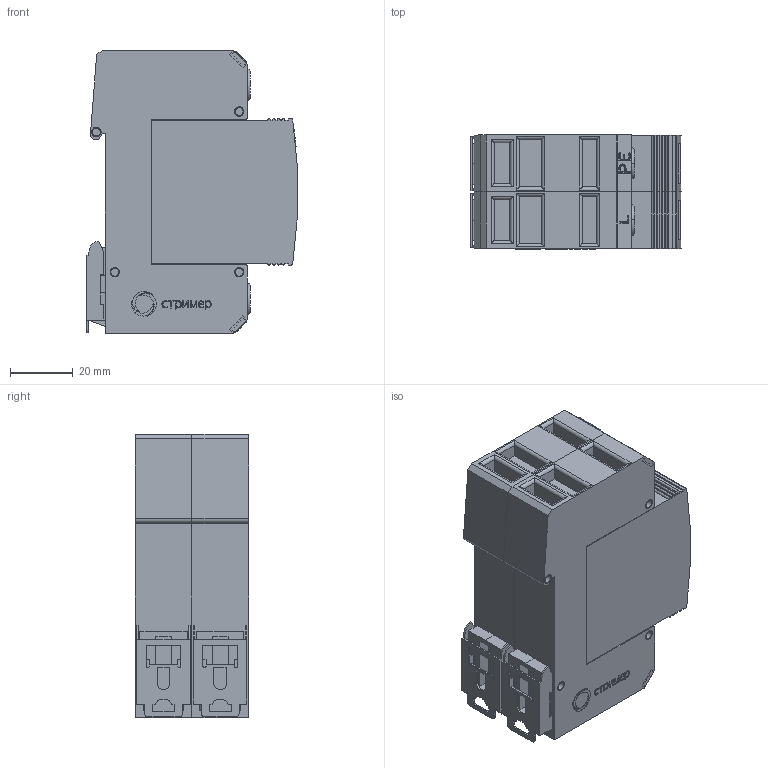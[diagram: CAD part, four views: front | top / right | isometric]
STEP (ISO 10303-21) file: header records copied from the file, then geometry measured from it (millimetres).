
FILE_DESCRIPTION(('TFLEX Exchange Step'),'2;1');
FILE_NAME('X2\041004400442\X0\.112_002.stp', '2022-07-15T15:50:44+03:00',('Pavel Oborin'),('Unknown organisation'),'TFLEX Exchange 2019.2','T-FLEX CAD','Unknown authorisation');
FILE_SCHEMA( ('AUTOMOTIVE_DESIGN { 1 0 10303 214 1 1 1 1 }') );
Length unit declared in the file: millimetre
Products named in the file (20): 0; Буква PE; Буква L; ВНЕШНИЙ МОДУЛЬ 18 без ушек:2; Планка:2; буква N:4; буква N:3; Корпус 18 без ушей:24; Корпус 18 без ушей:23; Корпус 18 без ушей:22; Корпус 18 без ушей:21; Корпус 18 без ушей:20; Корпус 18 без ушей:19; Корпус 18 без ушей:18; Корпус 18 без ушей:17; Корпус 18 без ушей:16; Корпус 18 без ушей:15; Корпус 18 без ушей:14; Корпус 18 без ушей:13; Арт.112_002
Assembly tree (35 placements, depth 2):
  Арт.112_002
    0
    Буква PE
    Буква L
    ВНЕШНИЙ МОДУЛЬ 18 без ушек:2  x2
    Планка:2  x2
    буква N:4  x2
    буква N:3  x2
    Корпус 18 без ушей:24  x2
    Корпус 18 без ушей:23  x2
    Корпус 18 без ушей:22  x2
    Корпус 18 без ушей:21  x2
    Корпус 18 без ушей:20  x2
    Корпус 18 без ушей:19  x2
    Корпус 18 без ушей:18  x2
    Корпус 18 без ушей:17  x2
    Корпус 18 без ушей:16  x2
    Корпус 18 без ушей:15  x2
    Корпус 18 без ушей:14  x2
    Корпус 18 без ушей:13  x2
Bounding box: 66.98 x 36.1 x 90.08 mm (x, y, z)
Volume: 172279.2 mm3; surface area: 48267.6 mm2
Topology: 59 solids, 59 shells, 950 faces, 2339 edges, 1525 vertices
Faces by surface type: plane 610, cylinder 240, bspline 92, torus 8
Entity records: 22218 total; most frequent: CARTESIAN_POINT 9100, ORIENTED_EDGE 2620, DIRECTION 2514, EDGE_CURVE 1310, VECTOR 960, LINE 960, VERTEX_POINT 851, AXIS2_PLACEMENT_3D 777
